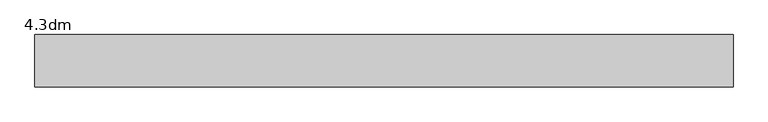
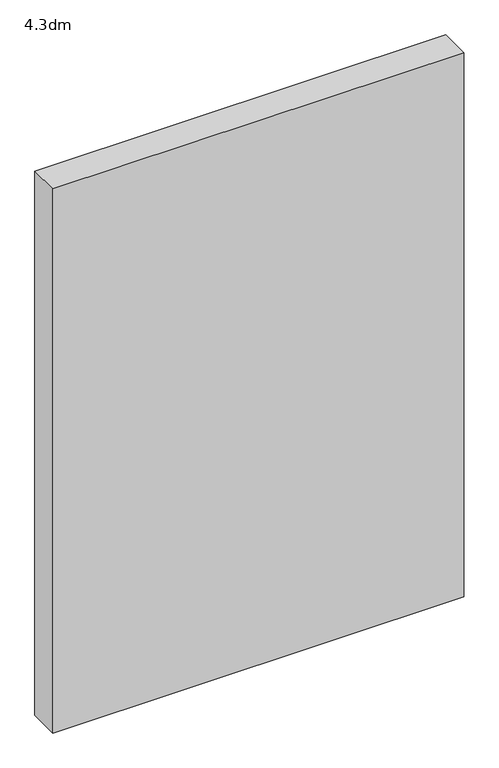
"""IFC4 building model written with IfcOpenShell, lengths in millimetres: proxy geometry, 4.3dm."""

from ifc_helpers import new_model, si_unit, origin, origin_with_axes, place, context, project, spatial, polyline, outline, extrude, source, transform, mapped, element, save


def proxy_4_3dm_06a9302c(model_context):
    return source(origin(), model_context, "Body", "SweptSolid", [
        extrude(outline(polyline([(6762.2096042, 12.0), (6762.2096042, 162.0), (8762.2096042, 162.0), (8762.2096042, 12.0), (6762.2096042, 12.0)])), origin_with_axes(), (0.0, 0.0, 1.0), 2800.0),
    ])


if __name__ == "__main__":
    model = new_model("IFC4")
    model_context = context("Model", 3, world=origin())
    ifc_project = project(units=[si_unit("LENGTHUNIT", "METRE", prefix="MILLI")], contexts=[model_context])
    site = spatial("IfcSite", under=ifc_project)
    building = spatial("IfcBuilding", under=site)
    placement = place(None, origin())
    proxy_4_3dm_shape = proxy_4_3dm_06a9302c(model_context)
    element("IfcBuildingElementProxy", 1, Name="4.3dm", ObjectType="4.3dm", at=placement, inside=building, context=model_context, shape_type="MappedRepresentation", body=[
        mapped(proxy_4_3dm_shape, transform((0.0, 0.0, 0.0), x_axis=(1.0, 0.0, 0.0), y_axis=(0.0, 1.0, 0.0), z_axis=(0.0, 0.0, 1.0))),
    ])
    save(model, "model.ifc")
